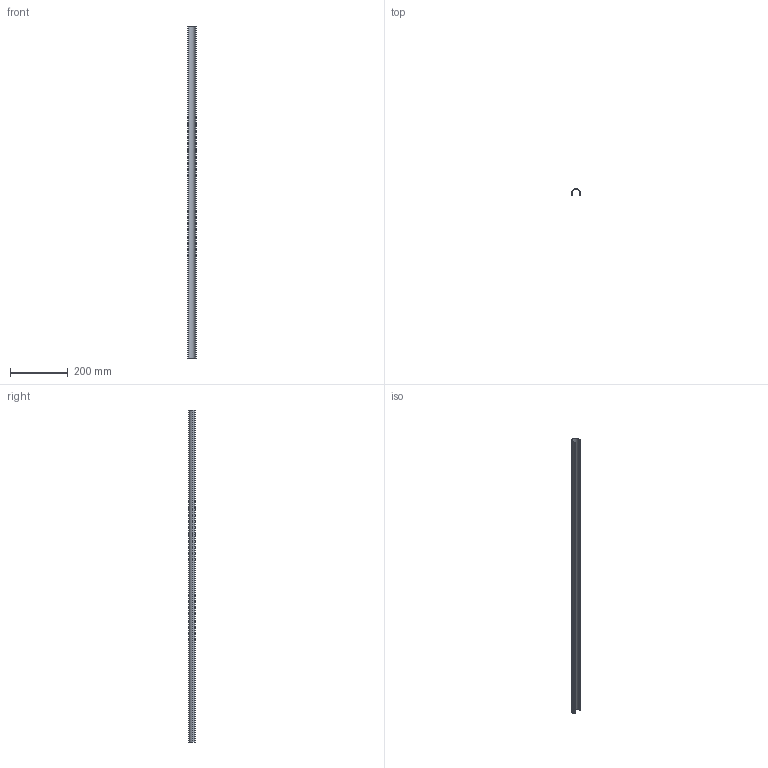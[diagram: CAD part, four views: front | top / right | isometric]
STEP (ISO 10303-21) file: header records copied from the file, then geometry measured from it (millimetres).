
FILE_DESCRIPTION (( 'STEP AP214' ), '1' );
FILE_NAME ('16208899_00_1150mm.STEP', '2022-08-31T04:58:35', ( '' ), ( '' ), 'SwSTEP 2.0', 'SolidWorks 2020', '' );
FILE_SCHEMA (( 'AUTOMOTIVE_DESIGN' ));
Length unit declared in the file: millimetre
Products named in the file (1): 16208899_00_1150mm
Bounding box: 28.5 x 22 x 1150 mm (x, y, z)
Volume: 71468.8 mm3; surface area: 144300.7 mm2
Topology: 1 solids, 1 shells, 23 faces, 63 edges, 42 vertices
Faces by surface type: plane 12, cylinder 11
Entity records: 773 total; most frequent: DIRECTION 133, CARTESIAN_POINT 129, ORIENTED_EDGE 126, EDGE_CURVE 63, AXIS2_PLACEMENT_3D 46, VERTEX_POINT 42, VECTOR 41, LINE 41
